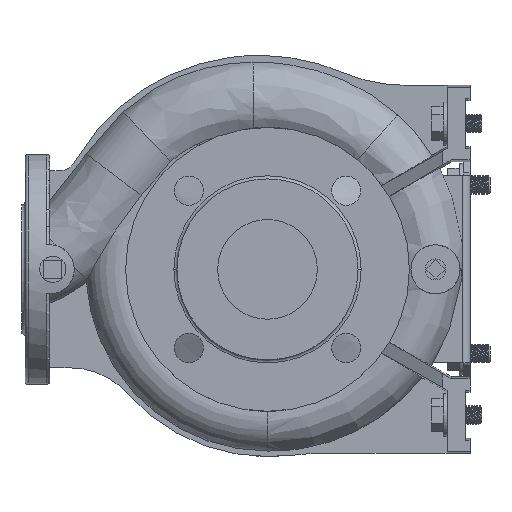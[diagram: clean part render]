
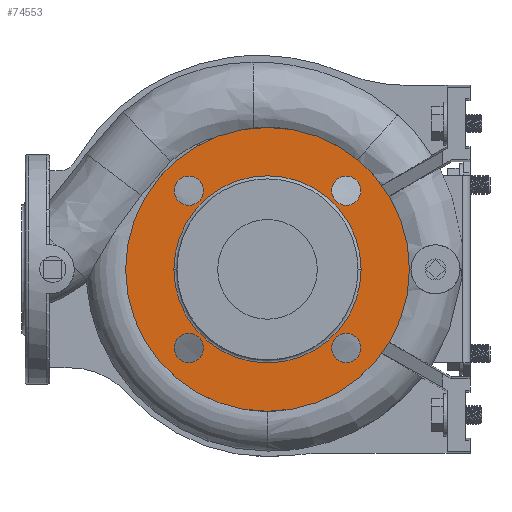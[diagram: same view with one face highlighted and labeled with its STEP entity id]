
A CAD part, left-side view. The second image highlights one B-rep face of the part: STEP entity #74553.
In plain terms, the highlighted planar face has unit normal (-1, 0, 0).
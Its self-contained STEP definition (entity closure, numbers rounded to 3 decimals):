
#621 = CARTESIAN_POINT ( 'NONE',  ( -78., 51.265, 51.265 ) ) ;
#1568 = DIRECTION ( 'NONE',  ( 0., -1., 0. ) ) ;
#2634 = ORIENTED_EDGE ( 'NONE', *, *, #173833, .F. ) ;
#3147 = DIRECTION ( 'NONE',  ( -1., 0., 0. ) ) ;
#3326 = CIRCLE ( 'NONE', #137851, 9.5 ) ;
#4158 = AXIS2_PLACEMENT_3D ( 'NONE', #49934, #93027, #161515 ) ;
#5423 = DIRECTION ( 'NONE',  ( 0., 1., 0. ) ) ;
#7166 = DIRECTION ( 'NONE',  ( -1., 0., 0. ) ) ;
#7646 = CARTESIAN_POINT ( 'NONE',  ( -78., 51.265, -51.265 ) ) ;
#11762 = ORIENTED_EDGE ( 'NONE', *, *, #45264, .F. ) ;
#12934 = DIRECTION ( 'NONE',  ( 0., 1., 0. ) ) ;
#14875 = ORIENTED_EDGE ( 'NONE', *, *, #182762, .F. ) ;
#15411 = CARTESIAN_POINT ( 'NONE',  ( -78., 0., 0. ) ) ;
#18605 = PLANE ( 'NONE',  #79657 ) ;
#22074 = CIRCLE ( 'NONE', #4158, 92.5 ) ;
#25128 = EDGE_LOOP ( 'NONE', ( #11762, #121361 ) ) ;
#26506 = ORIENTED_EDGE ( 'NONE', *, *, #161658, .F. ) ;
#29944 = EDGE_LOOP ( 'NONE', ( #47175, #26506 ) ) ;
#32289 = CARTESIAN_POINT ( 'NONE',  ( -78., 41.765, -51.265 ) ) ;
#36718 = VERTEX_POINT ( 'NONE', #167018 ) ;
#39246 = VERTEX_POINT ( 'NONE', #112621 ) ;
#41693 = CARTESIAN_POINT ( 'NONE',  ( -78., 92.5, 0. ) ) ;
#43773 = CIRCLE ( 'NONE', #133524, 9.5 ) ;
#43958 = ORIENTED_EDGE ( 'NONE', *, *, #159310, .F. ) ;
#45264 = EDGE_CURVE ( 'NONE', #145233, #47073, #119497, .T. ) ;
#45773 = FACE_BOUND ( 'NONE', #127561, .T. ) ;
#45907 = CIRCLE ( 'NONE', #90840, 61. ) ;
#46041 = VERTEX_POINT ( 'NONE', #41693 ) ;
#47073 = VERTEX_POINT ( 'NONE', #83632 ) ;
#47175 = ORIENTED_EDGE ( 'NONE', *, *, #166674, .F. ) ;
#48235 = VERTEX_POINT ( 'NONE', #51154 ) ;
#49934 = CARTESIAN_POINT ( 'NONE',  ( -78., 0., 0. ) ) ;
#51154 = CARTESIAN_POINT ( 'NONE',  ( -78., -92.5, 0. ) ) ;
#52357 = VERTEX_POINT ( 'NONE', #32289 ) ;
#53703 = AXIS2_PLACEMENT_3D ( 'NONE', #90775, #162898, #137528 ) ;
#56603 = CARTESIAN_POINT ( 'NONE',  ( -78., -51.265, 51.265 ) ) ;
#56862 = DIRECTION ( 'NONE',  ( -1., 0., 0. ) ) ;
#62575 = FACE_OUTER_BOUND ( 'NONE', #129061, .T. ) ;
#67197 = ORIENTED_EDGE ( 'NONE', *, *, #141135, .T. ) ;
#70077 = CARTESIAN_POINT ( 'NONE',  ( -78., -51.265, -51.265 ) ) ;
#74468 = ORIENTED_EDGE ( 'NONE', *, *, #79520, .T. ) ;
#74553 = ADVANCED_FACE ( 'NONE', ( #174125, #132908, #118813, #45773, #91609, #62575 ), #18605, .F. ) ;
#74805 = EDGE_CURVE ( 'NONE', #83497, #39246, #43773, .T. ) ;
#75312 = DIRECTION ( 'NONE',  ( -1., 0., 0. ) ) ;
#79520 = EDGE_CURVE ( 'NONE', #46041, #48235, #155400, .T. ) ;
#79657 = AXIS2_PLACEMENT_3D ( 'NONE', #102909, #117899, #5423 ) ;
#80271 = DIRECTION ( 'NONE',  ( 0., 0., -1. ) ) ;
#81663 = CARTESIAN_POINT ( 'NONE',  ( -78., 60.765, 51.265 ) ) ;
#83497 = VERTEX_POINT ( 'NONE', #158640 ) ;
#83632 = CARTESIAN_POINT ( 'NONE',  ( -78., 61., 0. ) ) ;
#86598 = DIRECTION ( 'NONE',  ( 0., 0., -1. ) ) ;
#86628 = DIRECTION ( 'NONE',  ( 0., -1., 0. ) ) ;
#90775 = CARTESIAN_POINT ( 'NONE',  ( -78., 0., 0. ) ) ;
#90840 = AXIS2_PLACEMENT_3D ( 'NONE', #15411, #158767, #86628 ) ;
#91516 = EDGE_LOOP ( 'NONE', ( #170559, #2634 ) ) ;
#91609 = FACE_BOUND ( 'NONE', #25128, .T. ) ;
#91714 = AXIS2_PLACEMENT_3D ( 'NONE', #621, #158036, #112130 ) ;
#92911 = DIRECTION ( 'NONE',  ( 0., 0., 1. ) ) ;
#93027 = DIRECTION ( 'NONE',  ( -1., 0., 0. ) ) ;
#93340 = DIRECTION ( 'NONE',  ( 0., -1., 0. ) ) ;
#93553 = EDGE_LOOP ( 'NONE', ( #14875, #132408 ) ) ;
#96612 = VERTEX_POINT ( 'NONE', #129860 ) ;
#102909 = CARTESIAN_POINT ( 'NONE',  ( -78., 61., 0. ) ) ;
#110926 = AXIS2_PLACEMENT_3D ( 'NONE', #147797, #7166, #93340 ) ;
#111342 = CIRCLE ( 'NONE', #147242, 9.5 ) ;
#111353 = CIRCLE ( 'NONE', #123387, 9.5 ) ;
#112130 = DIRECTION ( 'NONE',  ( 0., -1., 0. ) ) ;
#112621 = CARTESIAN_POINT ( 'NONE',  ( -78., -60.765, 51.265 ) ) ;
#114730 = CARTESIAN_POINT ( 'NONE',  ( -78., 51.265, -51.265 ) ) ;
#115089 = VERTEX_POINT ( 'NONE', #134475 ) ;
#117899 = DIRECTION ( 'NONE',  ( 1., 0., 0. ) ) ;
#118813 = FACE_BOUND ( 'NONE', #29944, .T. ) ;
#119497 = CIRCLE ( 'NONE', #137415, 61. ) ;
#120838 = EDGE_CURVE ( 'NONE', #47073, #145233, #45907, .T. ) ;
#121361 = ORIENTED_EDGE ( 'NONE', *, *, #120838, .F. ) ;
#123387 = AXIS2_PLACEMENT_3D ( 'NONE', #70077, #168478, #12934 ) ;
#127561 = EDGE_LOOP ( 'NONE', ( #181578, #43958 ) ) ;
#129061 = EDGE_LOOP ( 'NONE', ( #67197, #74468 ) ) ;
#129860 = CARTESIAN_POINT ( 'NONE',  ( -78., 41.765, 51.265 ) ) ;
#129952 = CARTESIAN_POINT ( 'NONE',  ( -78., 0., 0. ) ) ;
#131876 = CIRCLE ( 'NONE', #176647, 9.5 ) ;
#132148 = VERTEX_POINT ( 'NONE', #81663 ) ;
#132408 = ORIENTED_EDGE ( 'NONE', *, *, #74805, .F. ) ;
#132489 = DIRECTION ( 'NONE',  ( 0., 0., 1. ) ) ;
#132908 = FACE_BOUND ( 'NONE', #91516, .T. ) ;
#133524 = AXIS2_PLACEMENT_3D ( 'NONE', #138408, #153408, #80271 ) ;
#134205 = DIRECTION ( 'NONE',  ( -1., 0., 0. ) ) ;
#134475 = CARTESIAN_POINT ( 'NONE',  ( -78., -60.765, -51.265 ) ) ;
#134910 = CIRCLE ( 'NONE', #110926, 9.5 ) ;
#137415 = AXIS2_PLACEMENT_3D ( 'NONE', #129952, #56862, #1568 ) ;
#137528 = DIRECTION ( 'NONE',  ( 0., -1., 0. ) ) ;
#137851 = AXIS2_PLACEMENT_3D ( 'NONE', #7646, #134205, #92911 ) ;
#138408 = CARTESIAN_POINT ( 'NONE',  ( -78., -51.265, 51.265 ) ) ;
#139302 = CIRCLE ( 'NONE', #163228, 9.5 ) ;
#141135 = EDGE_CURVE ( 'NONE', #48235, #46041, #22074, .T. ) ;
#143298 = DIRECTION ( 'NONE',  ( 0., 1., 0. ) ) ;
#145233 = VERTEX_POINT ( 'NONE', #171869 ) ;
#147242 = AXIS2_PLACEMENT_3D ( 'NONE', #114730, #75312, #132489 ) ;
#147797 = CARTESIAN_POINT ( 'NONE',  ( -78., 51.265, 51.265 ) ) ;
#148580 = EDGE_CURVE ( 'NONE', #96612, #132148, #172510, .T. ) ;
#153408 = DIRECTION ( 'NONE',  ( -1., 0., 0. ) ) ;
#155400 = CIRCLE ( 'NONE', #53703, 92.5 ) ;
#158036 = DIRECTION ( 'NONE',  ( -1., 0., 0. ) ) ;
#158640 = CARTESIAN_POINT ( 'NONE',  ( -78., -41.765, 51.265 ) ) ;
#158767 = DIRECTION ( 'NONE',  ( -1., 0., 0. ) ) ;
#159310 = EDGE_CURVE ( 'NONE', #132148, #96612, #134910, .T. ) ;
#161515 = DIRECTION ( 'NONE',  ( 0., -1., 0. ) ) ;
#161658 = EDGE_CURVE ( 'NONE', #169016, #52357, #3326, .T. ) ;
#162898 = DIRECTION ( 'NONE',  ( -1., 0., 0. ) ) ;
#163228 = AXIS2_PLACEMENT_3D ( 'NONE', #174139, #173207, #143298 ) ;
#163880 = EDGE_CURVE ( 'NONE', #115089, #36718, #111353, .T. ) ;
#166674 = EDGE_CURVE ( 'NONE', #52357, #169016, #111342, .T. ) ;
#167018 = CARTESIAN_POINT ( 'NONE',  ( -78., -41.765, -51.265 ) ) ;
#168478 = DIRECTION ( 'NONE',  ( -1., 0., 0. ) ) ;
#169016 = VERTEX_POINT ( 'NONE', #180004 ) ;
#170559 = ORIENTED_EDGE ( 'NONE', *, *, #163880, .F. ) ;
#171869 = CARTESIAN_POINT ( 'NONE',  ( -78., -61., 0. ) ) ;
#172510 = CIRCLE ( 'NONE', #91714, 9.5 ) ;
#173207 = DIRECTION ( 'NONE',  ( -1., 0., 0. ) ) ;
#173833 = EDGE_CURVE ( 'NONE', #36718, #115089, #139302, .T. ) ;
#174125 = FACE_BOUND ( 'NONE', #93553, .T. ) ;
#174139 = CARTESIAN_POINT ( 'NONE',  ( -78., -51.265, -51.265 ) ) ;
#176647 = AXIS2_PLACEMENT_3D ( 'NONE', #56603, #3147, #86598 ) ;
#180004 = CARTESIAN_POINT ( 'NONE',  ( -78., 60.765, -51.265 ) ) ;
#181578 = ORIENTED_EDGE ( 'NONE', *, *, #148580, .F. ) ;
#182762 = EDGE_CURVE ( 'NONE', #39246, #83497, #131876, .T. ) ;
